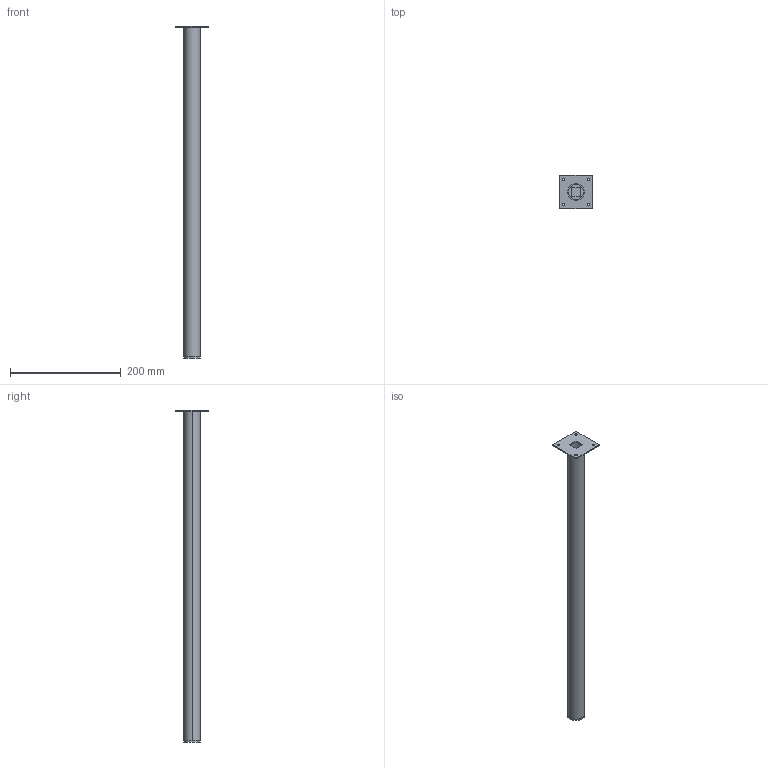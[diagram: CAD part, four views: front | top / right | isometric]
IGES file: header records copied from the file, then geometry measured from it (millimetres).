
Start section: Data from XPlus IGES,  Spatial Corp. Copyright (c) 1999-2004
Global section: file name: 46277.igs; native system:  By Spatial Corp.; preprocessor: XPlus ACIS/IGES 3.0; author: Noname; organization: Noname; date: 20140207.105418; units: millimetre
Bounding box: 60 x 60 x 600 mm (x, y, z)
Surface area: 117392.1 mm2 (no closed solid volume)
Topology: 0 solids, 0 shells, 35 faces, 168 edges, 168 vertices
Faces by surface type: revolution 20, extrusion 15
